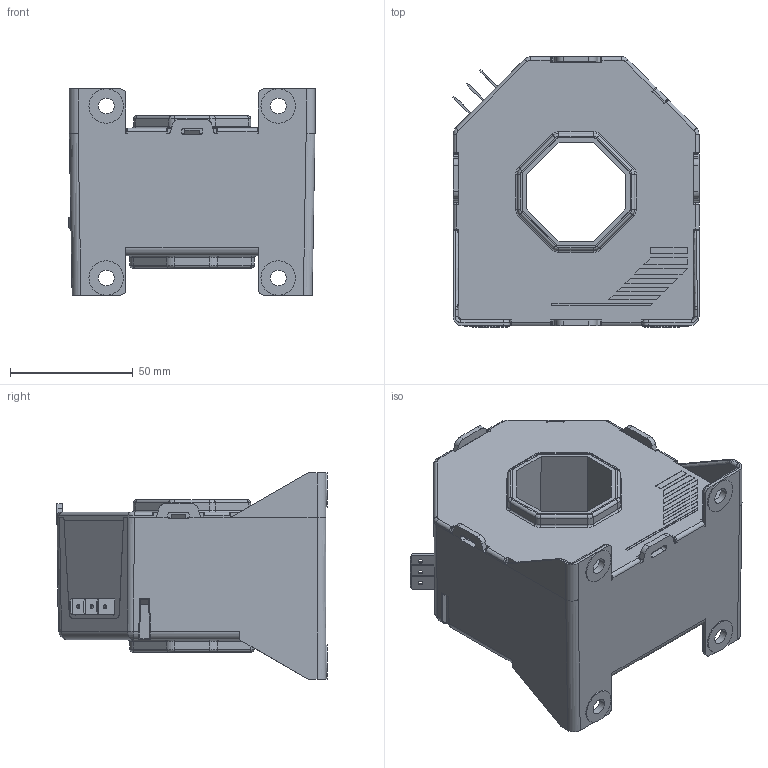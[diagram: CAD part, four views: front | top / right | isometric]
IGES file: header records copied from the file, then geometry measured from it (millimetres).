
Start section: Elysium IGES Interface
Global section: file name: C:\Documents and Settings\rla\Desktop\rémi\black box\LT 505-S\black-box LT 505-S.igs; native system: SolidDesigner 16.00A  16-Aug-2008; preprocessor: CoCreate IGES_3D V2.2; author: Unknown; organization: Unknown; date: 20100702.113536; units: millimetre
Bounding box: 100.12 x 110 x 84 mm (x, y, z)
Volume: 105220.5 mm3; surface area: 102535 mm2
Topology: 1 solids, 1 shells, 1777 faces, 4751 edges, 3036 vertices
Faces by surface type: bspline 1777
